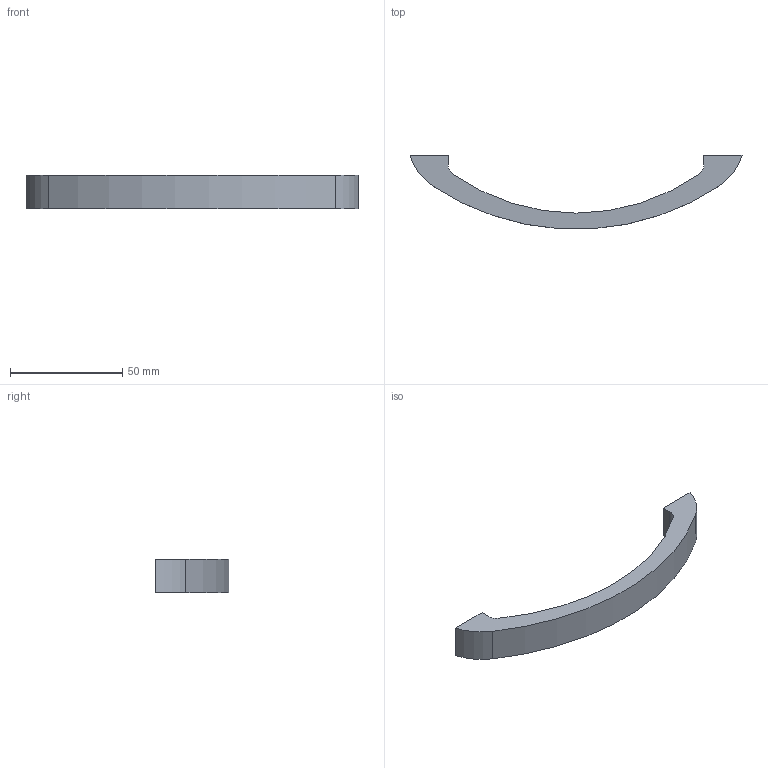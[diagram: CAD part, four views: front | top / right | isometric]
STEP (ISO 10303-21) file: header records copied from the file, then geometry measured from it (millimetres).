
FILE_DESCRIPTION( ( '' ), '1' );
FILE_NAME( 'D:/1.AUTOCAD EXPORT/Group 10/sheet_10_1/DONE/Sachin_1/115289.stp', '2013-10-29T09:56:54', ( '' ), ( '' ), ' ', ' ', ' ' );
FILE_SCHEMA( ( 'CONFIG_CONTROL_DESIGN' ) );
Length unit declared in the file: millimetre
Products named in the file (1): 1
Bounding box: 147.9 x 32.75 x 15 mm (x, y, z)
Volume: 19943.3 mm3; surface area: 7972.5 mm2
Topology: 1 solids, 1 shells, 18 faces, 42 edges, 28 vertices
Faces by surface type: cylinder 10, plane 8
Entity records: 570 total; most frequent: DIRECTION 100, CARTESIAN_POINT 89, ORIENTED_EDGE 84, EDGE_CURVE 42, AXIS2_PLACEMENT_3D 39, VERTEX_POINT 28, LINE 22, VECTOR 22
